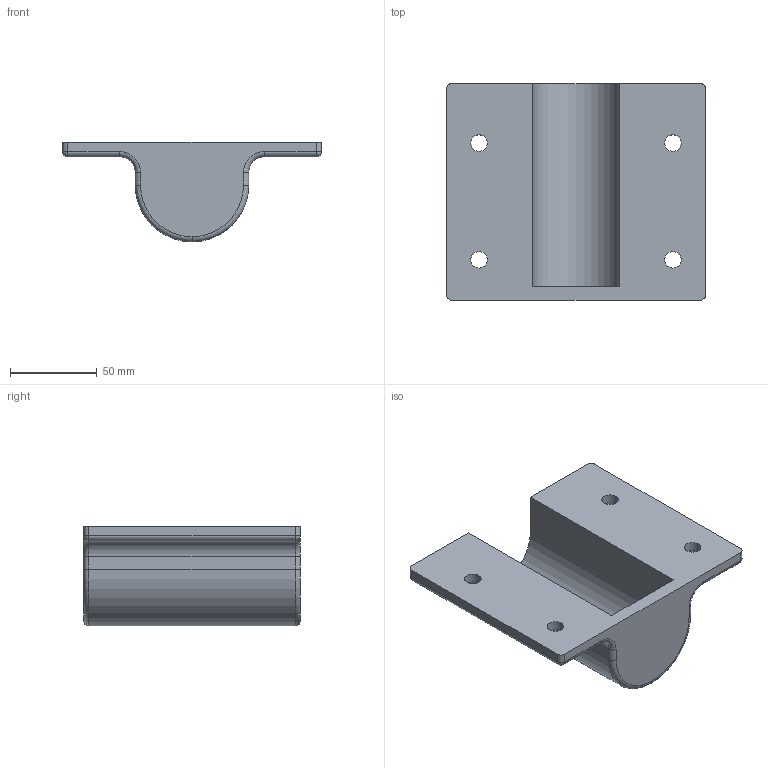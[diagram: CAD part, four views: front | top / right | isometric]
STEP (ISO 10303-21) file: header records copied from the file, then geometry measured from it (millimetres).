
FILE_DESCRIPTION (( 'STEP AP203' ), '1' );
FILE_NAME ('KIE_018.A15.STEP', '2025-01-22T20:01:45', ( '' ), ( '' ), 'SwSTEP 2.0', 'SolidWorks 2023', '' );
FILE_SCHEMA (( 'CONFIG_CONTROL_DESIGN' ));
Length unit declared in the file: millimetre
Products named in the file (1): KIE_018.A15
Bounding box: 149 x 124.5 x 57.4 mm (x, y, z)
Volume: 237050.2 mm3; surface area: 63843.1 mm2
Topology: 1 solids, 1 shells, 234 faces, 623 edges, 404 vertices
Faces by surface type: bspline 106, plane 81, cylinder 35, torus 8, sphere 4
Entity records: 10352 total; most frequent: CARTESIAN_POINT 5124, ORIENTED_EDGE 1238, DIRECTION 745, EDGE_CURVE 619, VERTEX_POINT 404, LINE 327, VECTOR 327, EDGE_LOOP 259
